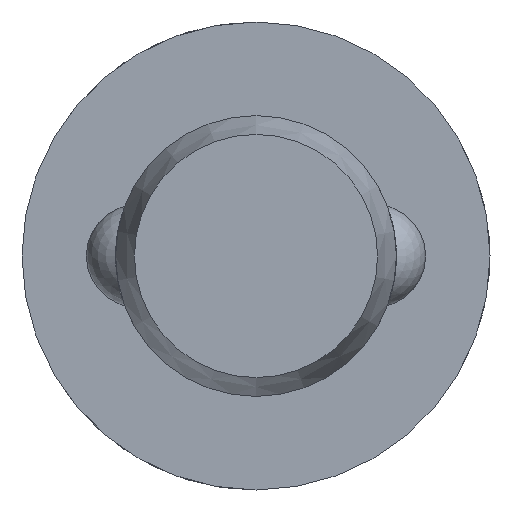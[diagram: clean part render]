
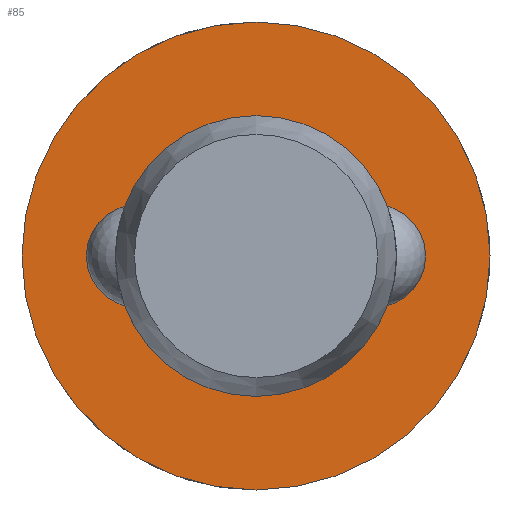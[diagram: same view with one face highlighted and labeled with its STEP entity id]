
A CAD part, left-side view. The second image highlights one B-rep face of the part: STEP entity #85.
In plain terms, the highlighted planar face has unit normal (-1, 0, 0).
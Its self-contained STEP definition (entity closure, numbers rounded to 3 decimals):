
#85 = ADVANCED_FACE( '', ( #130, #131 ), #132, .F. );
#130 = FACE_OUTER_BOUND( '', #201, .T. );
#131 = FACE_BOUND( '', #202, .T. );
#132 = PLANE( '', #203 );
#201 = EDGE_LOOP( '', ( #317 ) );
#202 = EDGE_LOOP( '', ( #318 ) );
#203 = AXIS2_PLACEMENT_3D( '', #319, #320, #321 );
#317 = ORIENTED_EDGE( '', *, *, #461, .F. );
#318 = ORIENTED_EDGE( '', *, *, #458, .T. );
#319 = CARTESIAN_POINT( '', ( 80.6, 6., 0. ) );
#320 = DIRECTION( '', ( 1., 0., 0. ) );
#321 = DIRECTION( '', ( 0., 0., -1. ) );
#458 = EDGE_CURVE( '', #532, #532, #533, .T. );
#461 = EDGE_CURVE( '', #538, #538, #539, .T. );
#532 = VERTEX_POINT( '', #742 );
#533 = CIRCLE( '', #743, 6. );
#538 = VERTEX_POINT( '', #858 );
#539 = CIRCLE( '', #859, 10. );
#742 = CARTESIAN_POINT( '', ( 80.6, 0., -6. ) );
#743 = AXIS2_PLACEMENT_3D( '', #936, #937, #938 );
#858 = CARTESIAN_POINT( '', ( 80.6, 0., -10. ) );
#859 = AXIS2_PLACEMENT_3D( '', #939, #940, #941 );
#936 = CARTESIAN_POINT( '', ( 80.6, 0., 0. ) );
#937 = DIRECTION( '', ( 1., 0., 0. ) );
#938 = DIRECTION( '', ( 0., 0., -1. ) );
#939 = CARTESIAN_POINT( '', ( 80.6, 0., 0. ) );
#940 = DIRECTION( '', ( 1., 0., 0. ) );
#941 = DIRECTION( '', ( 0., 0., -1. ) );
